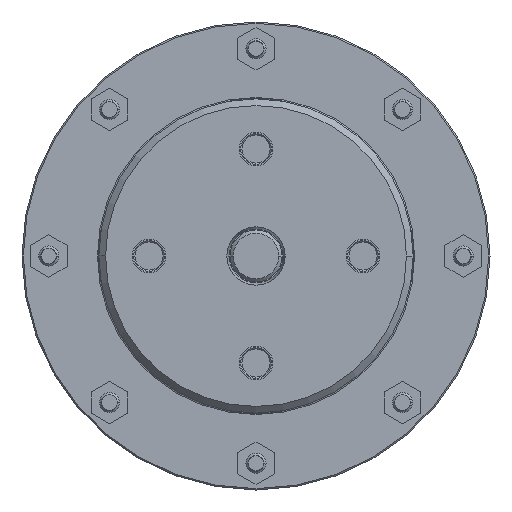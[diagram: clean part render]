
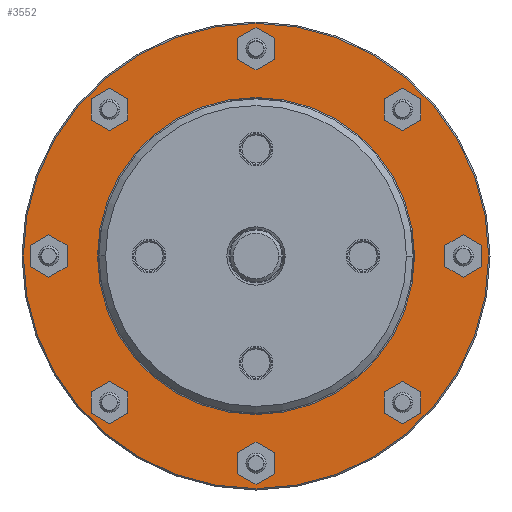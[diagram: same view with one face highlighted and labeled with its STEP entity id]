
A CAD part, left-side view. The second image highlights one B-rep face of the part: STEP entity #3552.
In plain terms, the highlighted planar face has unit normal (-1, 0, 0).
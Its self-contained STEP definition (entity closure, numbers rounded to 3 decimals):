
#1487=CARTESIAN_POINT('',(-5.,31.,0.));
#1488=DIRECTION('',(-1.,0.,0.));
#1489=DIRECTION('',(0.,-1.,0.));
#1490=AXIS2_PLACEMENT_3D('',#1487,#1488,#1489);
#1495=CARTESIAN_POINT('',(-5.,31.,0.));
#1496=DIRECTION('',(-1.,0.,0.));
#1497=DIRECTION('',(0.,1.,0.));
#1498=AXIS2_PLACEMENT_3D('',#1495,#1496,#1497);
#1503=CARTESIAN_POINT('',(-5.,21.92,21.92));
#1504=DIRECTION('',(-1.,0.,0.));
#1505=DIRECTION('',(0.,-0.707,-0.707));
#1506=AXIS2_PLACEMENT_3D('',#1503,#1504,#1505);
#1511=CARTESIAN_POINT('',(-5.,21.92,21.92));
#1512=DIRECTION('',(-1.,0.,0.));
#1513=DIRECTION('',(0.,0.707,0.707));
#1514=AXIS2_PLACEMENT_3D('',#1511,#1512,#1513);
#1519=CARTESIAN_POINT('',(-5.,0.,31.));
#1520=DIRECTION('',(-1.,0.,0.));
#1521=DIRECTION('',(0.,0.,-1.));
#1522=AXIS2_PLACEMENT_3D('',#1519,#1520,#1521);
#1527=CARTESIAN_POINT('',(-5.,0.,31.));
#1528=DIRECTION('',(-1.,0.,0.));
#1529=DIRECTION('',(0.,0.,1.));
#1530=AXIS2_PLACEMENT_3D('',#1527,#1528,#1529);
#1535=CARTESIAN_POINT('',(-5.,-21.92,21.92));
#1536=DIRECTION('',(-1.,0.,0.));
#1537=DIRECTION('',(0.,0.707,-0.707));
#1538=AXIS2_PLACEMENT_3D('',#1535,#1536,#1537);
#1543=CARTESIAN_POINT('',(-5.,-21.92,21.92));
#1544=DIRECTION('',(-1.,0.,0.));
#1545=DIRECTION('',(0.,-0.707,0.707));
#1546=AXIS2_PLACEMENT_3D('',#1543,#1544,#1545);
#1551=CARTESIAN_POINT('',(-5.,-31.,0.));
#1552=DIRECTION('',(-1.,0.,0.));
#1553=DIRECTION('',(0.,1.,0.));
#1554=AXIS2_PLACEMENT_3D('',#1551,#1552,#1553);
#1559=CARTESIAN_POINT('',(-5.,-31.,0.));
#1560=DIRECTION('',(-1.,0.,0.));
#1561=DIRECTION('',(0.,-1.,0.));
#1562=AXIS2_PLACEMENT_3D('',#1559,#1560,#1561);
#1567=CARTESIAN_POINT('',(-5.,-21.92,-21.92));
#1568=DIRECTION('',(-1.,0.,0.));
#1569=DIRECTION('',(0.,0.707,0.707));
#1570=AXIS2_PLACEMENT_3D('',#1567,#1568,#1569);
#1575=CARTESIAN_POINT('',(-5.,-21.92,-21.92));
#1576=DIRECTION('',(-1.,0.,0.));
#1577=DIRECTION('',(0.,-0.707,-0.707));
#1578=AXIS2_PLACEMENT_3D('',#1575,#1576,#1577);
#1583=CARTESIAN_POINT('',(-5.,0.,-31.));
#1584=DIRECTION('',(-1.,0.,0.));
#1585=DIRECTION('',(0.,0.,1.));
#1586=AXIS2_PLACEMENT_3D('',#1583,#1584,#1585);
#1591=CARTESIAN_POINT('',(-5.,0.,-31.));
#1592=DIRECTION('',(-1.,0.,0.));
#1593=DIRECTION('',(0.,0.,-1.));
#1594=AXIS2_PLACEMENT_3D('',#1591,#1592,#1593);
#1599=CARTESIAN_POINT('',(-5.,21.92,-21.92));
#1600=DIRECTION('',(-1.,0.,0.));
#1601=DIRECTION('',(0.,-0.707,0.707));
#1602=AXIS2_PLACEMENT_3D('',#1599,#1600,#1601);
#1607=CARTESIAN_POINT('',(-5.,21.92,-21.92));
#1608=DIRECTION('',(-1.,0.,0.));
#1609=DIRECTION('',(0.,0.707,-0.707));
#1610=AXIS2_PLACEMENT_3D('',#1607,#1608,#1609);
#1615=CARTESIAN_POINT('',(-5.,0.,0.));
#1616=DIRECTION('',(1.,0.,0.));
#1617=DIRECTION('',(0.,1.,0.));
#1618=AXIS2_PLACEMENT_3D('',#1615,#1616,#1617);
#1623=CARTESIAN_POINT('',(-5.,0.,0.));
#1624=DIRECTION('',(1.,0.,0.));
#1625=DIRECTION('',(0.,-1.,0.));
#1626=AXIS2_PLACEMENT_3D('',#1623,#1624,#1625);
#1631=CARTESIAN_POINT('',(-5.,0.,0.));
#1632=DIRECTION('',(-1.,0.,0.));
#1633=DIRECTION('',(0.,1.,0.));
#1634=AXIS2_PLACEMENT_3D('',#1631,#1632,#1633);
#1639=CARTESIAN_POINT('',(-5.,0.,0.));
#1640=DIRECTION('',(-1.,0.,0.));
#1641=DIRECTION('',(0.,-1.,0.));
#1642=AXIS2_PLACEMENT_3D('',#1639,#1640,#1641);
#1859=CARTESIAN_POINT('',(-5.,23.7,0.));
#1860=CARTESIAN_POINT('',(-5.,-23.7,0.));
#1861=VERTEX_POINT('',#1859);
#1862=VERTEX_POINT('',#1860);
#1875=CARTESIAN_POINT('',(-5.,29.25,0.));
#1876=CARTESIAN_POINT('',(-5.,32.75,0.));
#1877=VERTEX_POINT('',#1875);
#1878=VERTEX_POINT('',#1876);
#1883=CARTESIAN_POINT('',(-5.,20.683,20.683));
#1884=CARTESIAN_POINT('',(-5.,23.158,23.158));
#1885=VERTEX_POINT('',#1883);
#1886=VERTEX_POINT('',#1884);
#1891=CARTESIAN_POINT('',(-5.,0.,29.25));
#1892=CARTESIAN_POINT('',(-5.,0.,32.75));
#1893=VERTEX_POINT('',#1891);
#1894=VERTEX_POINT('',#1892);
#1899=CARTESIAN_POINT('',(-5.,-20.683,20.683));
#1900=CARTESIAN_POINT('',(-5.,-23.158,23.158));
#1901=VERTEX_POINT('',#1899);
#1902=VERTEX_POINT('',#1900);
#1907=CARTESIAN_POINT('',(-5.,-29.25,0.));
#1908=CARTESIAN_POINT('',(-5.,-32.75,0.));
#1909=VERTEX_POINT('',#1907);
#1910=VERTEX_POINT('',#1908);
#1915=CARTESIAN_POINT('',(-5.,-20.683,-20.683));
#1916=CARTESIAN_POINT('',(-5.,-23.158,-23.158));
#1917=VERTEX_POINT('',#1915);
#1918=VERTEX_POINT('',#1916);
#1923=CARTESIAN_POINT('',(-5.,0.,-29.25));
#1924=CARTESIAN_POINT('',(-5.,0.,-32.75));
#1925=VERTEX_POINT('',#1923);
#1926=VERTEX_POINT('',#1924);
#1931=CARTESIAN_POINT('',(-5.,20.683,-20.683));
#1932=CARTESIAN_POINT('',(-5.,23.158,-23.158));
#1933=VERTEX_POINT('',#1931);
#1934=VERTEX_POINT('',#1932);
#2003=CARTESIAN_POINT('',(-5.,34.8,0.));
#2004=CARTESIAN_POINT('',(-5.,-34.8,0.));
#2005=VERTEX_POINT('',#2003);
#2006=VERTEX_POINT('',#2004);
#3489=CARTESIAN_POINT('',(-5.,0.,0.));
#3490=DIRECTION('',(1.,0.,0.));
#3491=DIRECTION('',(0.,-1.,0.));
#3492=AXIS2_PLACEMENT_3D('',#3489,#3490,#3491);
#3493=PLANE('',#3492);
#3495=ORIENTED_EDGE('',*,*,#3494,.F.);
#3497=ORIENTED_EDGE('',*,*,#3496,.F.);
#3498=EDGE_LOOP('',(#3495,#3497));
#3499=FACE_OUTER_BOUND('',#3498,.F.);
#3501=ORIENTED_EDGE('',*,*,#3500,.T.);
#3503=ORIENTED_EDGE('',*,*,#3502,.T.);
#3504=EDGE_LOOP('',(#3501,#3503));
#3505=FACE_BOUND('',#3504,.F.);
#3507=ORIENTED_EDGE('',*,*,#3506,.T.);
#3509=ORIENTED_EDGE('',*,*,#3508,.T.);
#3510=EDGE_LOOP('',(#3507,#3509));
#3511=FACE_BOUND('',#3510,.F.);
#3513=ORIENTED_EDGE('',*,*,#3512,.T.);
#3515=ORIENTED_EDGE('',*,*,#3514,.T.);
#3516=EDGE_LOOP('',(#3513,#3515));
#3517=FACE_BOUND('',#3516,.F.);
#3519=ORIENTED_EDGE('',*,*,#3518,.T.);
#3521=ORIENTED_EDGE('',*,*,#3520,.T.);
#3522=EDGE_LOOP('',(#3519,#3521));
#3523=FACE_BOUND('',#3522,.F.);
#3525=ORIENTED_EDGE('',*,*,#3524,.T.);
#3527=ORIENTED_EDGE('',*,*,#3526,.T.);
#3528=EDGE_LOOP('',(#3525,#3527));
#3529=FACE_BOUND('',#3528,.F.);
#3531=ORIENTED_EDGE('',*,*,#3530,.T.);
#3533=ORIENTED_EDGE('',*,*,#3532,.T.);
#3534=EDGE_LOOP('',(#3531,#3533));
#3535=FACE_BOUND('',#3534,.F.);
#3537=ORIENTED_EDGE('',*,*,#3536,.T.);
#3539=ORIENTED_EDGE('',*,*,#3538,.T.);
#3540=EDGE_LOOP('',(#3537,#3539));
#3541=FACE_BOUND('',#3540,.F.);
#3542=ORIENTED_EDGE('',*,*,#3476,.F.);
#3543=ORIENTED_EDGE('',*,*,#3455,.F.);
#3544=EDGE_LOOP('',(#3542,#3543));
#3545=FACE_BOUND('',#3544,.F.);
#3547=ORIENTED_EDGE('',*,*,#3546,.T.);
#3549=ORIENTED_EDGE('',*,*,#3548,.T.);
#3550=EDGE_LOOP('',(#3547,#3549));
#3551=FACE_BOUND('',#3550,.F.);
#3552=ADVANCED_FACE('',(#3499,#3505,#3511,#3517,#3523,#3529,#3535,#3541,#3545,
#3551),#3493,.F.);
#1491=CIRCLE('',#1490,1.75);
#1499=CIRCLE('',#1498,1.75);
#1507=CIRCLE('',#1506,1.75);
#1515=CIRCLE('',#1514,1.75);
#1523=CIRCLE('',#1522,1.75);
#1531=CIRCLE('',#1530,1.75);
#1539=CIRCLE('',#1538,1.75);
#1547=CIRCLE('',#1546,1.75);
#1555=CIRCLE('',#1554,1.75);
#1563=CIRCLE('',#1562,1.75);
#1571=CIRCLE('',#1570,1.75);
#1579=CIRCLE('',#1578,1.75);
#1587=CIRCLE('',#1586,1.75);
#1595=CIRCLE('',#1594,1.75);
#1603=CIRCLE('',#1602,1.75);
#1611=CIRCLE('',#1610,1.75);
#1619=CIRCLE('',#1618,23.7);
#1627=CIRCLE('',#1626,23.7);
#1635=CIRCLE('',#1634,34.8);
#1643=CIRCLE('',#1642,34.8);
#3455=EDGE_CURVE('',#1862,#1861,#1627,.T.);
#3476=EDGE_CURVE('',#1861,#1862,#1619,.T.);
#3494=EDGE_CURVE('',#2005,#2006,#1635,.T.);
#3496=EDGE_CURVE('',#2006,#2005,#1643,.T.);
#3500=EDGE_CURVE('',#1885,#1886,#1507,.T.);
#3502=EDGE_CURVE('',#1886,#1885,#1515,.T.);
#3506=EDGE_CURVE('',#1893,#1894,#1523,.T.);
#3508=EDGE_CURVE('',#1894,#1893,#1531,.T.);
#3512=EDGE_CURVE('',#1901,#1902,#1539,.T.);
#3514=EDGE_CURVE('',#1902,#1901,#1547,.T.);
#3518=EDGE_CURVE('',#1909,#1910,#1555,.T.);
#3520=EDGE_CURVE('',#1910,#1909,#1563,.T.);
#3524=EDGE_CURVE('',#1917,#1918,#1571,.T.);
#3526=EDGE_CURVE('',#1918,#1917,#1579,.T.);
#3530=EDGE_CURVE('',#1925,#1926,#1587,.T.);
#3532=EDGE_CURVE('',#1926,#1925,#1595,.T.);
#3536=EDGE_CURVE('',#1933,#1934,#1603,.T.);
#3538=EDGE_CURVE('',#1934,#1933,#1611,.T.);
#3546=EDGE_CURVE('',#1877,#1878,#1491,.T.);
#3548=EDGE_CURVE('',#1878,#1877,#1499,.T.);
